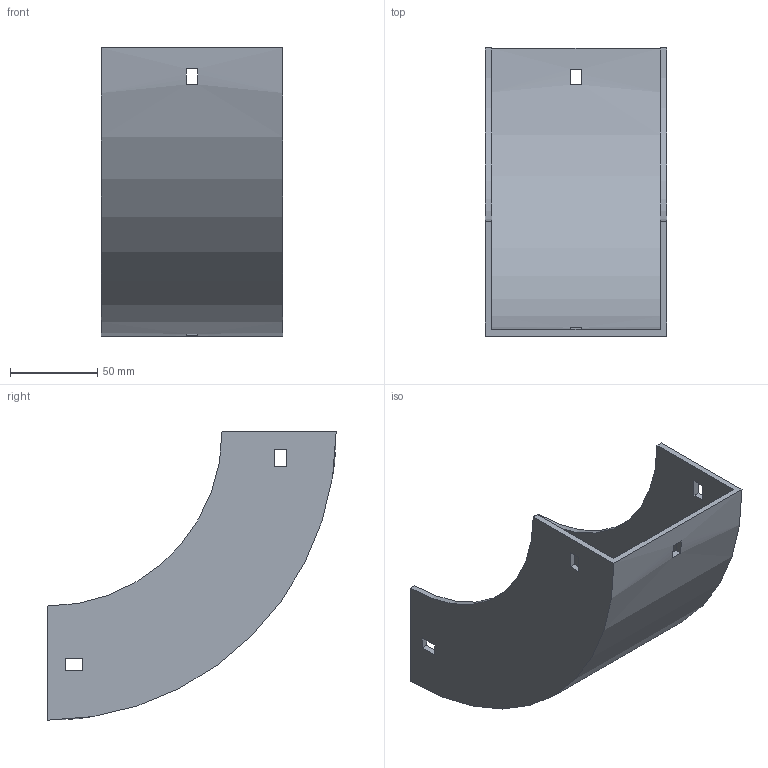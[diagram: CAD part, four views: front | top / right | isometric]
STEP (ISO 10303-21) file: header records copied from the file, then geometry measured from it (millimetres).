
FILE_DESCRIPTION (( 'STEP AP214' ), '1' );
FILE_NAME ('30B1H100.step', '2025-02-21T09:50:14', ( '' ), ( '' ), 'SwSTEP 2.0', 'SolidWorks 2023', '' );
FILE_SCHEMA (( 'AUTOMOTIVE_DESIGN' ));
Length unit declared in the file: millimetre
Products named in the file (1): 30B1H100
Bounding box: 104 x 165.5 x 165.5 mm (x, y, z)
Volume: 181541.7 mm3; surface area: 107147.1 mm2
Topology: 1 solids, 1 shells, 34 faces, 96 edges, 64 vertices
Faces by surface type: plane 30, cylinder 4
Entity records: 1143 total; most frequent: CARTESIAN_POINT 195, ORIENTED_EDGE 192, DIRECTION 182, EDGE_CURVE 96, LINE 80, VECTOR 80, VERTEX_POINT 64, AXIS2_PLACEMENT_3D 51
